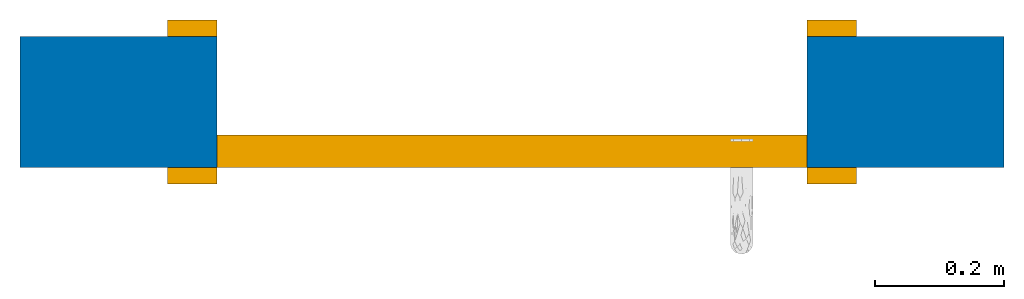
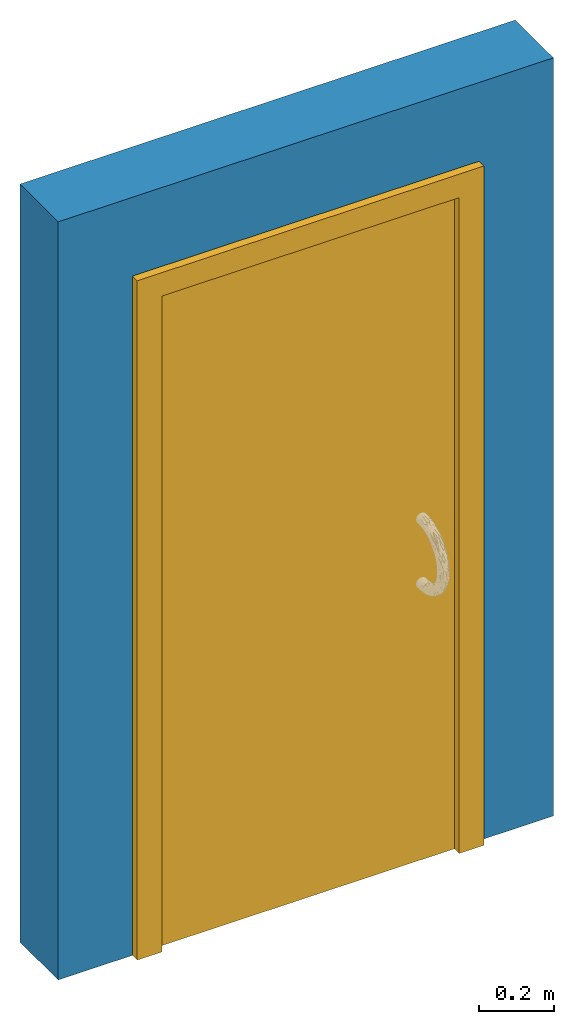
# One storey, incomplete: 1 door, 1 wall, 1 opening.
"""IFC2X3 building model written with IfcOpenShell, lengths in feet."""

from ifc_helpers import new_model, entity, si_unit, converted_unit, derived_unit, direction, frame, frame_2d, origin, place, context, subcontext, project, spatial, polyline, rectangle, outline, extrude, source, transform, mapped, material, material_list, layer, layer_set, layer_usage, type_object, type_shapes, element, fill, save


model = new_model("IFC2X3")

# Units and contexts
model_context = context("Model", 3, precision=0.0001, world=origin(), true_north=direction((6.12303176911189e-17, 1.0)))
body_context = subcontext(model_context, "Body", "Model", "MODEL_VIEW")
ifc_project = project(units=[converted_unit("LENGTHUNIT", "FOOT", entity("IfcRatioMeasure", 0.3048), si_unit("LENGTHUNIT", "METRE"), dimensions=[1, 0, 0, 0, 0, 0, 0]), converted_unit("AREAUNIT", "SQUARE FOOT", entity("IfcRatioMeasure", 0.09290304), si_unit("AREAUNIT", "SQUARE_METRE"), dimensions=[2, 0, 0, 0, 0, 0, 0]), converted_unit("VOLUMEUNIT", "CUBIC FOOT", entity("IfcRatioMeasure", 0.028316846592), si_unit("VOLUMEUNIT", "CUBIC_METRE"), dimensions=[3, 0, 0, 0, 0, 0, 0]), converted_unit("PLANEANGLEUNIT", "DEGREE", entity("IfcRatioMeasure", 0.0174532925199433), si_unit("PLANEANGLEUNIT", "RADIAN"), dimensions=[0, 0, 0, 0, 0, 0, 0]), si_unit("MASSUNIT", "GRAM", prefix="KILO"), derived_unit("MASSDENSITYUNIT", [(si_unit("MASSUNIT", "GRAM", prefix="KILO"), 1), (si_unit("LENGTHUNIT", "METRE"), -3)]), si_unit("TIMEUNIT", "SECOND"), si_unit("FREQUENCYUNIT", "HERTZ"), si_unit("THERMODYNAMICTEMPERATUREUNIT", "DEGREE_CELSIUS"), derived_unit("THERMALTRANSMITTANCEUNIT", [(si_unit("MASSUNIT", "GRAM", prefix="KILO"), 1), (si_unit("THERMODYNAMICTEMPERATUREUNIT", "KELVIN"), -1), (si_unit("TIMEUNIT", "SECOND"), -3)]), derived_unit("VOLUMETRICFLOWRATEUNIT", [(si_unit("LENGTHUNIT", "METRE"), 3), (si_unit("TIMEUNIT", "SECOND"), -1)]), si_unit("ELECTRICCURRENTUNIT", "AMPERE"), si_unit("ELECTRICVOLTAGEUNIT", "VOLT"), si_unit("POWERUNIT", "WATT"), si_unit("FORCEUNIT", "NEWTON"), si_unit("ILLUMINANCEUNIT", "LUX"), si_unit("LUMINOUSFLUXUNIT", "LUMEN"), si_unit("LUMINOUSINTENSITYUNIT", "CANDELA"), derived_unit("USERDEFINED", [(si_unit("MASSUNIT", "GRAM", prefix="KILO"), -1), (si_unit("LENGTHUNIT", "METRE"), -2), (si_unit("TIMEUNIT", "SECOND"), 3), (si_unit("LUMINOUSFLUXUNIT", "LUMEN"), 1)]), derived_unit("LINEARVELOCITYUNIT", [(si_unit("LENGTHUNIT", "METRE"), 1), (si_unit("TIMEUNIT", "SECOND"), -1)]), si_unit("PRESSUREUNIT", "PASCAL"), derived_unit("USERDEFINED", [(si_unit("LENGTHUNIT", "METRE"), -2), (si_unit("MASSUNIT", "GRAM", prefix="KILO"), 1), (si_unit("TIMEUNIT", "SECOND"), -2)])], contexts=[model_context])

# Site, building, storey
site_placement = place(None, origin())
site = spatial("IfcSite", under=ifc_project, at=site_placement, Name="Default", CompositionType="ELEMENT")
building_placement = place(site_placement, origin())
building = spatial("IfcBuilding", under=site, at=building_placement, CompositionType="ELEMENT")
storey_placement = place(building_placement, origin())
storey = spatial("IfcBuildingStorey", under=building, at=storey_placement, Name="Level 1", CompositionType="ELEMENT", Elevation=0.0)

# Wall, opening, door
ifc_material_1 = material(Name="Default Wall")
ifc_layer = layer(ifc_material_1, 0.666666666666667)
ifc_layer_set = layer_set([ifc_layer], Name="Basic Wall:Generic - 8\"")
ifc_layer_usage = layer_usage(ifc_layer_set, "AXIS2", "NEGATIVE", 0.333333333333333)
wall_type = type_object("IfcWallType", Name="Basic Wall:Generic - 8\"", PredefinedType="STANDARD", material=ifc_layer_set)
wall_placement = place(storey_placement, frame((-4.66798095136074, 6.74397942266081, 0.0)))
wall = element("IfcWallStandardCase", 1, at=wall_placement, inside=storey, type_object=wall_type, material=ifc_layer_usage, Name="Basic Wall:Generic - 8\"", ObjectType="Basic Wall:Generic - 8\"", context=body_context, shape_type="SweptSolid", body=[
    extrude(rectangle(XDim=5.0, YDim=0.666666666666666, at=frame_2d((2.5, -3.05311331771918e-16), x_axis=(-1.0, 0.0))), origin(), (0.0, 0.0, 1.0), 8.09131948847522),
])
opening_placement = place(wall_placement, frame((4.0, 0.333333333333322, 0.0)))
opening = element("IfcOpeningElement", 2, at=opening_placement, cuts=wall, Name="Single-Flush:36\" x 84\":1", ObjectType="Opening", context=body_context, shape_type="SweptSolid", body=[
    extrude(rectangle(XDim=3.0, YDim=7.0, at=frame_2d((3.5, 1.5), x_axis=(0.0, 1.0))), frame((0.0, 0.0, 0.0), z_axis=(0.0, -1.0, 0.0), x_axis=(0.0, 0.0, 1.0)), (0.0, 0.0, 1.0), 0.666666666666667),
])
ifc_material_2 = material(Name="Door - Frame")
ifc_material_3 = material(Name="Door - Panel")
ifc_material_list_1 = material_list([ifc_material_2, ifc_material_3])
ifc_material_list_2 = material_list([ifc_material_2, ifc_material_3])
door_style = type_object("IfcDoorStyle", Name="36\" x 84\"", ConstructionType="NOTDEFINED", OperationType="SINGLE_SWING_RIGHT", ParameterTakesPrecedence=False, Sizeable=False, material=ifc_material_list_2)
shared_shape = source(origin(), body_context, "Body", "SweptSolid", [
    extrude(outline(polyline([(-1.75, -3.6875), (1.75, -3.6875), (1.75, 3.5625), (1.5, 3.5625), (1.5, -3.43750000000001), (-1.5, -3.43750000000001), (-1.5, 3.5625), (-1.75, 3.5625), (-1.75, -3.6875)])), frame((1.5, 0.666666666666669, 3.5625), z_axis=(0.0, 1.0, 0.0), x_axis=(1.0, 0.0, 0.0)), (0.0, 0.0, 1.0), 0.0833333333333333),
    extrude(outline(polyline([(-3.6875, -1.74999999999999), (3.5625, -1.74999999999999), (3.5625, -1.50000000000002), (-3.4375, -1.50000000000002), (-3.4375, 1.50000000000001), (3.5625, 1.50000000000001), (3.5625, 1.75000000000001), (-3.6875, 1.75000000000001), (-3.6875, -1.74999999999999)])), frame((1.50000000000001, -0.0833333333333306, 3.5625), z_axis=(0.0, 1.0, 0.0), x_axis=(0.0, 0.0, -1.0)), (0.0, 0.0, 1.0), 0.0833333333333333),
    extrude(rectangle(XDim=0.166666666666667, YDim=3.0, at=frame_2d((-1.38777878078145e-17, 0.0), x_axis=(1.0, 0.0))), frame((1.5, 0.583333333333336, 0.0), z_axis=(0.0, 0.0, 1.0), x_axis=(0.0, 1.0, 0.0)), (0.0, 0.0, 1.0), 7.0),
])
type_shapes(door_style, [shared_shape])
door_placement = place(opening_placement, frame((0.0, 0.0, 0.0), z_axis=(0.0, 0.0, 1.0), x_axis=(-1.0, 0.0, 0.0)))
door = element("IfcDoor", 3, at=door_placement, inside=storey, type_object=door_style, material=ifc_material_list_1, Name="Single-Flush:36\" x 84\"", ObjectType="Single-Flush:36\" x 84\"", OverallHeight=7.0, OverallWidth=3.0, context=body_context, shape_type="MappedRepresentation", body=[
    mapped(shared_shape, transform((0.0, 0.0, 0.0), scale=1.0)),
])
fill(opening, door)

save(model, "model.ifc")
